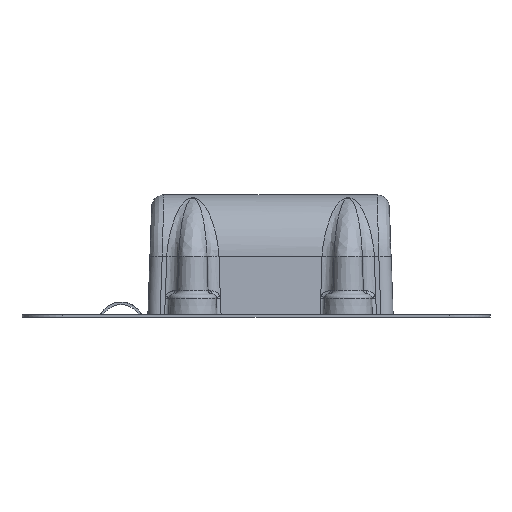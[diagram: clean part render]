
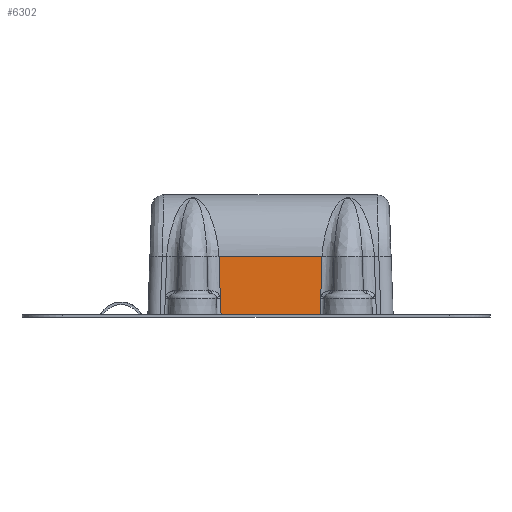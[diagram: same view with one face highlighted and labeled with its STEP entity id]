
A CAD part, front view. The second image highlights one B-rep face of the part: STEP entity #6302.
In plain terms, the highlighted planar face has unit normal (0, -0.999, 0.035).
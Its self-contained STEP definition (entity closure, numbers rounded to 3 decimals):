
#519 = ORIENTED_EDGE ( 'NONE', *, *, #12843, .T. ) ;
#567 = ORIENTED_EDGE ( 'NONE', *, *, #11151, .F. ) ;
#591 = ORIENTED_EDGE ( 'NONE', *, *, #12851, .T. ) ;
#2137 = ORIENTED_EDGE ( 'NONE', *, *, #12881, .F. ) ;
#2243 = VERTEX_POINT ( 'NONE', #15257 ) ;
#2345 = VERTEX_POINT ( 'NONE', #15274 ) ;
#2401 = VERTEX_POINT ( 'NONE', #15334 ) ;
#3083 = ORIENTED_EDGE ( 'NONE', *, *, #12912, .T. ) ;
#3776 = ORIENTED_EDGE ( 'NONE', *, *, #12936, .T. ) ;
#4046 = ORIENTED_EDGE ( 'NONE', *, *, #12939, .T. ) ;
#4285 = ORIENTED_EDGE ( 'NONE', *, *, #12966, .F. ) ;
#5117 = CARTESIAN_POINT ( 'NONE',  ( 15.848, -15.885, -2.671 ) ) ;
#6302 = ADVANCED_FACE ( 'NONE', ( #6369 ), #9010, .T. ) ;
#6369 = FACE_OUTER_BOUND ( 'NONE', #13534, .T. ) ;
#6795 = DIRECTION ( 'NONE',  ( -1., 0., 0. ) ) ;
#6838 = CARTESIAN_POINT ( 'NONE',  ( 0., -16.04, -7.113 ) ) ;
#8710 = DIRECTION ( 'NONE',  ( -1., 0., 0. ) ) ;
#8730 = DIRECTION ( 'NONE',  ( 0., -0.999, 0.035 ) ) ;
#8754 = CARTESIAN_POINT ( 'NONE',  ( 17.393, -15.516, 7.896 ) ) ;
#9010 = PLANE ( 'NONE',  #15079 ) ;
#10872 = CARTESIAN_POINT ( 'NONE',  ( -8.748, -15.885, -2.671 ) ) ;
#10893 = CARTESIAN_POINT ( 'NONE',  ( -8.715, -15.889, -2.804 ) ) ;
#10940 = CARTESIAN_POINT ( 'NONE',  ( -8.692, -15.899, -3.078 ) ) ;
#11030 = CARTESIAN_POINT ( 'NONE',  ( -8.748, -15.885, -2.671 ) ) ;
#11100 = CARTESIAN_POINT ( 'NONE',  ( -8.843, -15.767, 0.685 ) ) ;
#11151 = EDGE_CURVE ( 'NONE', #17339, #21182, #21096, .T. ) ;
#11298 = CARTESIAN_POINT ( 'NONE',  ( -8.696, -15.894, -2.941 ) ) ;
#11325 = CARTESIAN_POINT ( 'NONE',  ( -9.034, -15.54, 7.182 ) ) ;
#11377 = CARTESIAN_POINT ( 'NONE',  ( -0.645, -15.54, 7.181 ) ) ;
#11399 = CARTESIAN_POINT ( 'NONE',  ( -8.939, -15.653, 3.969 ) ) ;
#11474 = CARTESIAN_POINT ( 'NONE',  ( -9.034, -15.54, 7.182 ) ) ;
#11525 = CARTESIAN_POINT ( 'NONE',  ( 16.134, -15.54, 7.181 ) ) ;
#11553 = CARTESIAN_POINT ( 'NONE',  ( 16.039, -15.653, 3.969 ) ) ;
#11689 = CARTESIAN_POINT ( 'NONE',  ( 15.848, -15.885, -2.671 ) ) ;
#11717 = CARTESIAN_POINT ( 'NONE',  ( 16.134, -15.54, 7.181 ) ) ;
#11770 = CARTESIAN_POINT ( 'NONE',  ( 7.745, -15.54, 7.181 ) ) ;
#12044 = CARTESIAN_POINT ( 'NONE',  ( 15.792, -15.899, -3.078 ) ) ;
#12113 = CARTESIAN_POINT ( 'NONE',  ( 15.796, -15.894, -2.941 ) ) ;
#12146 = CARTESIAN_POINT ( 'NONE',  ( 15.943, -15.767, 0.685 ) ) ;
#12189 = CARTESIAN_POINT ( 'NONE',  ( 15.848, -15.885, -2.671 ) ) ;
#12217 = CARTESIAN_POINT ( 'NONE',  ( 15.815, -15.889, -2.804 ) ) ;
#12358 = CARTESIAN_POINT ( 'NONE',  ( 15.792, -15.899, -3.078 ) ) ;
#12384 = CARTESIAN_POINT ( 'NONE',  ( 15.745, -15.946, -4.423 ) ) ;
#12465 = CARTESIAN_POINT ( 'NONE',  ( 15.651, -16.04, -7.113 ) ) ;
#12493 = CARTESIAN_POINT ( 'NONE',  ( 15.698, -15.993, -5.768 ) ) ;
#12559 = CARTESIAN_POINT ( 'NONE',  ( -8.551, -16.04, -7.113 ) ) ;
#12585 = CARTESIAN_POINT ( 'NONE',  ( -8.598, -15.993, -5.768 ) ) ;
#12652 = CARTESIAN_POINT ( 'NONE',  ( -8.645, -15.946, -4.423 ) ) ;
#12779 = CARTESIAN_POINT ( 'NONE',  ( -8.692, -15.899, -3.078 ) ) ;
#12843 = EDGE_CURVE ( 'NONE', #13959, #21182, #17568, .T. ) ;
#12851 = EDGE_CURVE ( 'NONE', #17339, #13757, #17567, .T. ) ;
#12881 = EDGE_CURVE ( 'NONE', #16953, #13757, #17535, .T. ) ;
#12912 = EDGE_CURVE ( 'NONE', #16953, #2401, #17508, .T. ) ;
#12936 = EDGE_CURVE ( 'NONE', #2401, #2345, #17488, .T. ) ;
#12939 = EDGE_CURVE ( 'NONE', #2345, #2243, #17483, .T. ) ;
#12966 = EDGE_CURVE ( 'NONE', #13959, #2243, #17481, .T. ) ;
#13534 = EDGE_LOOP ( 'NONE', ( #519, #567, #591, #2137, #3083, #3776, #4046, #4285 ) ) ;
#13757 = VERTEX_POINT ( 'NONE', #20099 ) ;
#13959 = VERTEX_POINT ( 'NONE', #15569 ) ;
#15079 = AXIS2_PLACEMENT_3D ( 'NONE', #8754, #8730, #8710 ) ;
#15257 = CARTESIAN_POINT ( 'NONE',  ( -8.748, -15.885, -2.671 ) ) ;
#15274 = CARTESIAN_POINT ( 'NONE',  ( -9.034, -15.54, 7.182 ) ) ;
#15334 = CARTESIAN_POINT ( 'NONE',  ( 16.134, -15.54, 7.181 ) ) ;
#15569 = CARTESIAN_POINT ( 'NONE',  ( -8.692, -15.899, -3.078 ) ) ;
#16953 = VERTEX_POINT ( 'NONE', #5117 ) ;
#17339 = VERTEX_POINT ( 'NONE', #21315 ) ;
#17481 = B_SPLINE_CURVE_WITH_KNOTS ( 'NONE', 3,
 ( #10940, #11298, #10893, #10872 ),
 .UNSPECIFIED., .F., .F.,
 ( 4, 4 ),
 ( 0., 1. ),
 .UNSPECIFIED. ) ;
#17483 = B_SPLINE_CURVE_WITH_KNOTS ( 'NONE', 3,
 ( #11474, #11399, #11100, #11030 ),
 .UNSPECIFIED., .F., .F.,
 ( 4, 4 ),
 ( 0., 1. ),
 .UNSPECIFIED. ) ;
#17488 = B_SPLINE_CURVE_WITH_KNOTS ( 'NONE', 3,
 ( #11717, #11770, #11377, #11325 ),
 .UNSPECIFIED., .F., .F.,
 ( 4, 4 ),
 ( 0., 1. ),
 .UNSPECIFIED. ) ;
#17508 = B_SPLINE_CURVE_WITH_KNOTS ( 'NONE', 3,
 ( #11689, #12146, #11553, #11525 ),
 .UNSPECIFIED., .F., .F.,
 ( 4, 4 ),
 ( 0., 1. ),
 .UNSPECIFIED. ) ;
#17535 = B_SPLINE_CURVE_WITH_KNOTS ( 'NONE', 3,
 ( #12189, #12217, #12113, #12044 ),
 .UNSPECIFIED., .F., .F.,
 ( 4, 4 ),
 ( 0., 1. ),
 .UNSPECIFIED. ) ;
#17567 = B_SPLINE_CURVE_WITH_KNOTS ( 'NONE', 3,
 ( #12465, #12493, #12384, #12358 ),
 .UNSPECIFIED., .F., .F.,
 ( 4, 4 ),
 ( 0., 1. ),
 .UNSPECIFIED. ) ;
#17568 = B_SPLINE_CURVE_WITH_KNOTS ( 'NONE', 3,
 ( #12779, #12652, #12585, #12559 ),
 .UNSPECIFIED., .F., .F.,
 ( 4, 4 ),
 ( 0., 1. ),
 .UNSPECIFIED. ) ;
#18316 = CARTESIAN_POINT ( 'NONE',  ( -8.551, -16.04, -7.113 ) ) ;
#20099 = CARTESIAN_POINT ( 'NONE',  ( 15.792, -15.899, -3.078 ) ) ;
#20945 = VECTOR ( 'NONE', #6795, 1000. ) ;
#21096 = LINE ( 'NONE', #6838, #20945 ) ;
#21182 = VERTEX_POINT ( 'NONE', #18316 ) ;
#21315 = CARTESIAN_POINT ( 'NONE',  ( 15.651, -16.04, -7.113 ) ) ;
